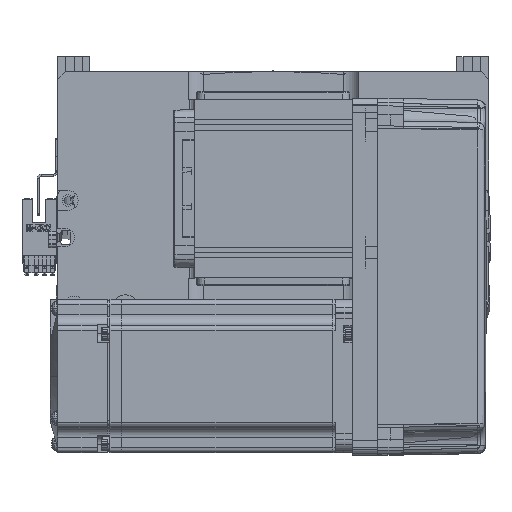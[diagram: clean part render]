
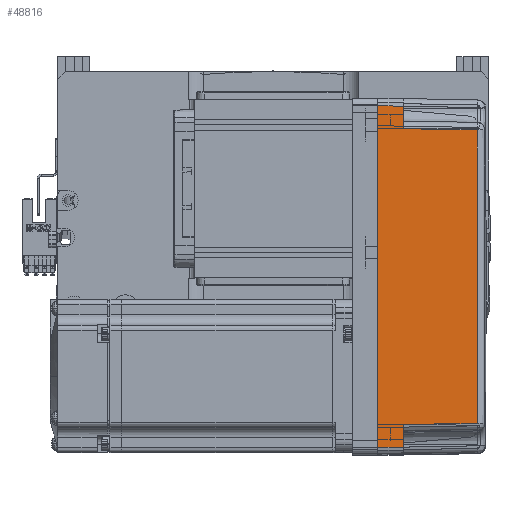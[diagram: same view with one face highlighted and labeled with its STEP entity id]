
A CAD part, top view. The second image highlights one B-rep face of the part: STEP entity #48816.
In plain terms, the highlighted planar face has unit normal (0.018, 0, 1) as drawn and (0, 1, 0.017) by its records, which use the part's own axes.
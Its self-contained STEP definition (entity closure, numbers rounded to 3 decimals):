
#3127 = CARTESIAN_POINT ( 'NONE',  ( -58., 35.825, 10. ) ) ;
#3925 = EDGE_LOOP ( 'NONE', ( #53191, #17157, #32003, #39377, #40681, #24502, #55286, #24473 ) ) ;
#7414 = VECTOR ( 'NONE', #65968, 1000. ) ;
#8260 = VERTEX_POINT ( 'NONE', #26452 ) ;
#9167 = CARTESIAN_POINT ( 'NONE',  ( 70., 36., 0. ) ) ;
#10327 = VECTOR ( 'NONE', #47128, 1000. ) ;
#10489 = CARTESIAN_POINT ( 'NONE',  ( -67., 36., 0. ) ) ;
#10502 = CARTESIAN_POINT ( 'NONE',  ( 70., 35.825, 10. ) ) ;
#10794 = VERTEX_POINT ( 'NONE', #64781 ) ;
#12126 = VERTEX_POINT ( 'NONE', #22015 ) ;
#17157 = ORIENTED_EDGE ( 'NONE', *, *, #54482, .T. ) ;
#18519 = FACE_OUTER_BOUND ( 'NONE', #3925, .T. ) ;
#19485 = LINE ( 'NONE', #32325, #30821 ) ;
#21673 = VERTEX_POINT ( 'NONE', #28937 ) ;
#22015 = CARTESIAN_POINT ( 'NONE',  ( -67., 36., 0. ) ) ;
#22669 = EDGE_CURVE ( 'NONE', #57909, #58585, #45845, .T. ) ;
#23122 = CARTESIAN_POINT ( 'NONE',  ( -57.495, 35.32, 38.985 ) ) ;
#23556 = CARTESIAN_POINT ( 'NONE',  ( 57.495, 35.32, 38.985 ) ) ;
#24255 = B_SPLINE_CURVE_WITH_KNOTS ( 'NONE', 3,
 ( #23122, #59228, #38488, #23556 ),
 .UNSPECIFIED., .F., .F.,
 ( 4, 4 ),
 ( 0., 1. ),
 .UNSPECIFIED. ) ;
#24473 = ORIENTED_EDGE ( 'NONE', *, *, #38983, .F. ) ;
#24502 = ORIENTED_EDGE ( 'NONE', *, *, #33463, .T. ) ;
#26452 = CARTESIAN_POINT ( 'NONE',  ( -66.826, 35.825, 10. ) ) ;
#28160 = VECTOR ( 'NONE', #33336, 1000. ) ;
#28937 = CARTESIAN_POINT ( 'NONE',  ( -57.495, 35.32, 38.985 ) ) ;
#30227 = CARTESIAN_POINT ( 'NONE',  ( 58., 35.825, 10. ) ) ;
#30238 = AXIS2_PLACEMENT_3D ( 'NONE', #9167, #45366, #39571 ) ;
#30703 = EDGE_CURVE ( 'NONE', #12126, #8260, #66300, .T. ) ;
#30821 = VECTOR ( 'NONE', #62951, 1000. ) ;
#32003 = ORIENTED_EDGE ( 'NONE', *, *, #58635, .T. ) ;
#32325 = CARTESIAN_POINT ( 'NONE',  ( 70., 35.825, 10. ) ) ;
#33336 = DIRECTION ( 'NONE',  ( -0.017, -0.017, 1. ) ) ;
#33463 = EDGE_CURVE ( 'NONE', #49283, #58585, #45959, .T. ) ;
#38213 = EDGE_CURVE ( 'NONE', #10794, #49283, #53685, .T. ) ;
#38339 = CARTESIAN_POINT ( 'NONE',  ( 66.826, 35.825, 10. ) ) ;
#38488 = CARTESIAN_POINT ( 'NONE',  ( 19.165, 35.316, 39.181 ) ) ;
#38983 = EDGE_CURVE ( 'NONE', #12126, #57909, #51096, .T. ) ;
#39377 = ORIENTED_EDGE ( 'NONE', *, *, #45161, .T. ) ;
#39571 = DIRECTION ( 'NONE',  ( 0., -0.017, 1. ) ) ;
#40104 = CARTESIAN_POINT ( 'NONE',  ( -58., 35.825, 10. ) ) ;
#40323 = DIRECTION ( 'NONE',  ( 0.017, -0.017, 1. ) ) ;
#40681 = ORIENTED_EDGE ( 'NONE', *, *, #38213, .T. ) ;
#42517 = VERTEX_POINT ( 'NONE', #3127 ) ;
#43975 = VECTOR ( 'NONE', #56468, 1000. ) ;
#44102 = CARTESIAN_POINT ( 'NONE',  ( 67.001, 36.001, -0.052 ) ) ;
#45161 = EDGE_CURVE ( 'NONE', #21673, #10794, #24255, .T. ) ;
#45366 = DIRECTION ( 'NONE',  ( 0., 1., 0.017 ) ) ;
#45579 = PLANE ( 'NONE',  #30238 ) ;
#45845 = LINE ( 'NONE', #44102, #28160 ) ;
#45959 = LINE ( 'NONE', #10502, #10327 ) ;
#46081 = CARTESIAN_POINT ( 'NONE',  ( 57.495, 35.32, 38.985 ) ) ;
#46698 = DIRECTION ( 'NONE',  ( 0.017, -0.017, 1. ) ) ;
#47128 = DIRECTION ( 'NONE',  ( 1., 0., 0. ) ) ;
#47186 = LINE ( 'NONE', #40104, #54429 ) ;
#48816 = ADVANCED_FACE ( 'NONE', ( #18519 ), #45579, .T. ) ;
#49283 = VERTEX_POINT ( 'NONE', #30227 ) ;
#51096 = LINE ( 'NONE', #60341, #7414 ) ;
#53191 = ORIENTED_EDGE ( 'NONE', *, *, #30703, .T. ) ;
#53685 = LINE ( 'NONE', #46081, #43975 ) ;
#54429 = VECTOR ( 'NONE', #40323, 1000. ) ;
#54482 = EDGE_CURVE ( 'NONE', #8260, #42517, #19485, .T. ) ;
#54971 = VECTOR ( 'NONE', #46698, 1000. ) ;
#55286 = ORIENTED_EDGE ( 'NONE', *, *, #22669, .F. ) ;
#56468 = DIRECTION ( 'NONE',  ( 0.017, 0.017, -1. ) ) ;
#57909 = VERTEX_POINT ( 'NONE', #62985 ) ;
#58585 = VERTEX_POINT ( 'NONE', #38339 ) ;
#58635 = EDGE_CURVE ( 'NONE', #42517, #21673, #47186, .T. ) ;
#59228 = CARTESIAN_POINT ( 'NONE',  ( -19.165, 35.316, 39.181 ) ) ;
#60341 = CARTESIAN_POINT ( 'NONE',  ( 0., 36., 0. ) ) ;
#62951 = DIRECTION ( 'NONE',  ( 1., 0., 0. ) ) ;
#62985 = CARTESIAN_POINT ( 'NONE',  ( 67., 36., 0. ) ) ;
#64781 = CARTESIAN_POINT ( 'NONE',  ( 57.495, 35.32, 38.985 ) ) ;
#65968 = DIRECTION ( 'NONE',  ( 1., 0., 0. ) ) ;
#66300 = LINE ( 'NONE', #10489, #54971 ) ;
